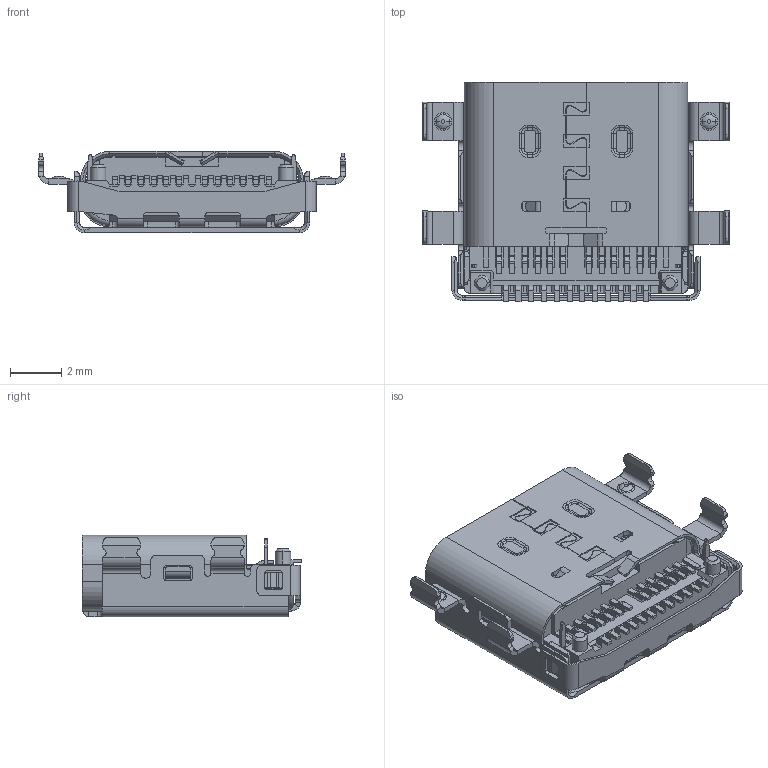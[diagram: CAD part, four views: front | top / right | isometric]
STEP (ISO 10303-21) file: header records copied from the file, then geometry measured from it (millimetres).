
FILE_DESCRIPTION((''),'2;1');
FILE_NAME('S-57996-024XX-XXX_20180315','2018-05-12T',('k72474'),(''),'PRO/ENGINEER BY PARAMETRIC TECHNOLOGY CORPORATION, 2009360','PRO/ENGINEER BY PARAMETRIC TECHNOLOGY CORPORATION, 2009360','');
FILE_SCHEMA(('CONFIG_CONTROL_DESIGN'));
Length unit declared in the file: millimetre
Products named in the file (1): S-57996-024XX-XXX_20180315
Bounding box: 12 x 8.57 x 3.18 mm (x, y, z)
Volume: 123.8 mm3; surface area: 803 mm2
Topology: 1 solids, 84 shells, 2603 faces, 7103 edges, 4677 vertices
Faces by surface type: plane 2020, cylinder 497, cone 32, torus 28, bspline 26
Entity records: 81995 total; most frequent: CARTESIAN_POINT 15955, ORIENTED_EDGE 13892, DIRECTION 13093, EDGE_CURVE 6946, VECTOR 5709, LINE 5709, VERTEX_POINT 4518, AXIS2_PLACEMENT_3D 3692
